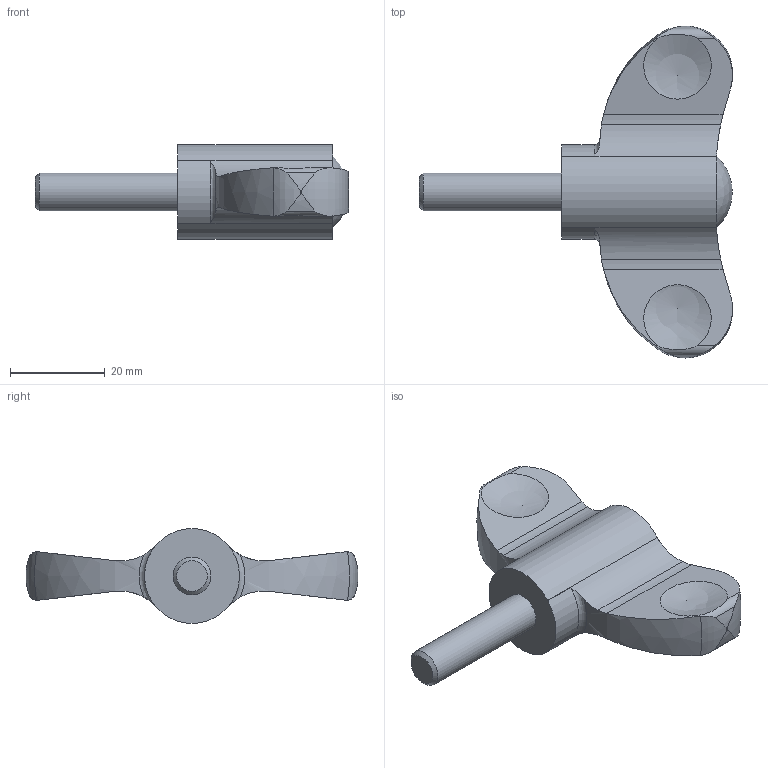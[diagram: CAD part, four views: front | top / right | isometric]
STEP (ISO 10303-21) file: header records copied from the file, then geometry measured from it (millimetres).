
FILE_DESCRIPTION( ( 'STEP AP203' ), '1' );
FILE_NAME( 'C:/Temp/Ganter_Step_05_03_2020/data/2_2/gn_633/Wing nut GN 633-70-M8-30-DGB.stp', '2020-03-05T12:21:02', ( 'License CC BY-ND 4.0' ), ( 'CADENAS' ), ' ', 'PARTsolutions', ' ' );
FILE_SCHEMA( ( 'CONFIG_CONTROL_DESIGN' ) );
Length unit declared in the file: millimetre
Products named in the file (1): _Wing nut GN 633-70-M8-30-DGB
Bounding box: 66 x 70 x 20 mm (x, y, z)
Volume: 20465.8 mm3; surface area: 6342.4 mm2
Topology: 1 solids, 1 shells, 46 faces, 133 edges, 89 vertices
Faces by surface type: cylinder 25, plane 7, sphere 5, torus 4, bspline 4, cone 1
Full cylindrical faces by diameter (mm): 8 x1
Entity records: 2042 total; most frequent: CARTESIAN_POINT 953, ORIENTED_EDGE 236, DIRECTION 180, EDGE_CURVE 118, VERTEX_POINT 84, AXIS2_PLACEMENT_3D 75, B_SPLINE_CURVE_WITH_KNOTS 56, EDGE_LOOP 52
